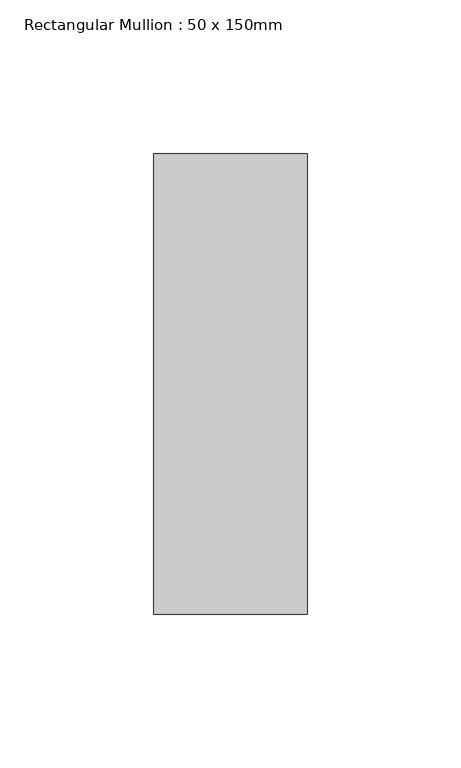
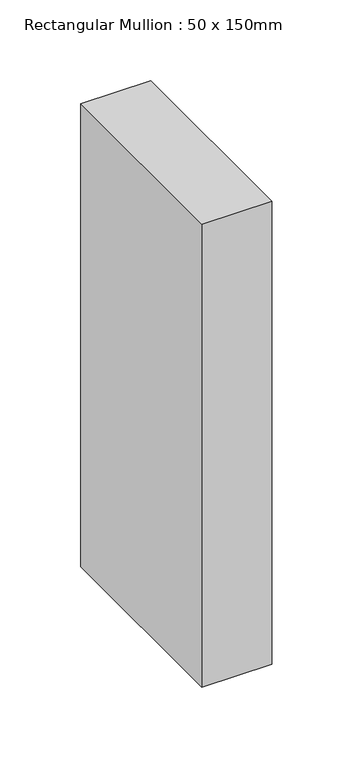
"""IFC4 building model written with IfcOpenShell, lengths in millimetres: member geometry, Rectangular Mullion : 50 x 150mm."""

from ifc_helpers import new_model, si_unit, frame, origin, place, context, project, spatial, polyline, outline, extrude, source, transform, mapped, element, save


def rectangular_mullion_50_x_150mm_23485ade(model_context):
    return source(origin(), model_context, "Body", "SweptSolid", [
        extrude(outline(polyline([(0.0, 75.0), (0.0, -75.0), (-50.0, -75.0), (-50.0, 75.0), (0.0, 75.0)])), frame((0.0, 0.0, -350.0), z_axis=(0.0, 0.0, 1.0), x_axis=(1.0, 0.0, 0.0)), (0.0, 0.0, 1.0), 350.0),
    ])


if __name__ == "__main__":
    model = new_model("IFC4")
    model_context = context("Model", 3, world=origin())
    ifc_project = project(units=[si_unit("LENGTHUNIT", "METRE", prefix="MILLI")], contexts=[model_context])
    site = spatial("IfcSite", under=ifc_project)
    building = spatial("IfcBuilding", under=site)
    placement = place(None, origin())
    rectangular_mullion_50_x_150mm_shape = rectangular_mullion_50_x_150mm_23485ade(model_context)
    element("IfcMember", 1, ObjectType="Rectangular Mullion : 50 x 150mm", at=placement, inside=building, context=model_context, shape_type="MappedRepresentation", body=[
        mapped(rectangular_mullion_50_x_150mm_shape, transform((0.0, 0.0, 0.0), x_axis=(1.0, 0.0, 0.0), y_axis=(0.0, 1.0, 0.0), z_axis=(0.0, 0.0, 1.0))),
    ])
    save(model, "model.ifc")
